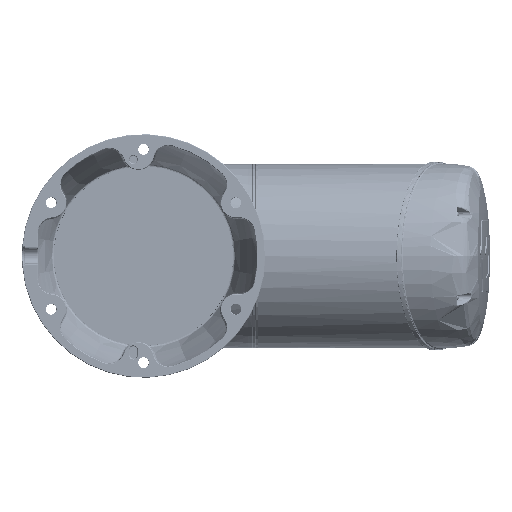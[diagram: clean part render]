
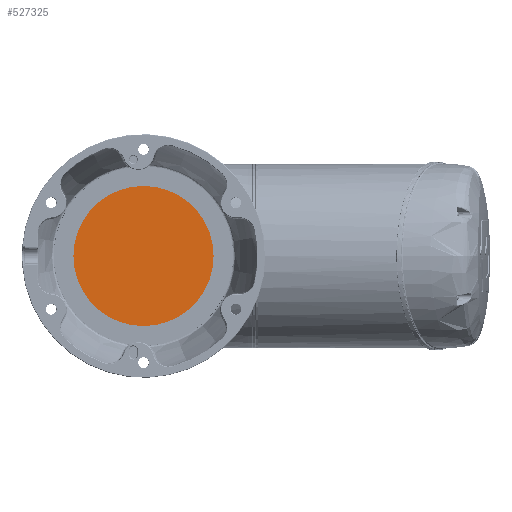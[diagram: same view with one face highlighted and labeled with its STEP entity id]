
A CAD part, front view. The second image highlights one B-rep face of the part: STEP entity #527325.
In plain terms, the highlighted planar face has unit normal (0, -1, 0).
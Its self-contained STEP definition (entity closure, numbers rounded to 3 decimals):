
#51033 = FACE_OUTER_BOUND ( 'NONE', #191072, .T. ) ;
#54501 = CARTESIAN_POINT ( 'NONE',  ( 0., 0., 0. ) ) ;
#78019 = EDGE_CURVE ( 'NONE', #438367, #431569, #463079, .T. ) ;
#118763 = DIRECTION ( 'NONE',  ( 0., -1., 0. ) ) ;
#164545 = DIRECTION ( 'NONE',  ( 0., 1., 0. ) ) ;
#191072 = EDGE_LOOP ( 'NONE', ( #491096, #366258 ) ) ;
#250323 = DIRECTION ( 'NONE',  ( 0., 0., 1. ) ) ;
#252302 = CARTESIAN_POINT ( 'NONE',  ( 0., 0., 69.012 ) ) ;
#287035 = EDGE_CURVE ( 'NONE', #431569, #438367, #527315, .T. ) ;
#293523 = DIRECTION ( 'NONE',  ( 0., 0., 1. ) ) ;
#308442 = AXIS2_PLACEMENT_3D ( 'NONE', #368930, #118763, #363534 ) ;
#335574 = DIRECTION ( 'NONE',  ( 0., -1., 0. ) ) ;
#363534 = DIRECTION ( 'NONE',  ( 0., 0., 1. ) ) ;
#366258 = ORIENTED_EDGE ( 'NONE', *, *, #287035, .T. ) ;
#368930 = CARTESIAN_POINT ( 'NONE',  ( 0., 0., 0. ) ) ;
#378157 = AXIS2_PLACEMENT_3D ( 'NONE', #54501, #335574, #293523 ) ;
#403515 = CARTESIAN_POINT ( 'NONE',  ( 0., 0., -69.012 ) ) ;
#414716 = CARTESIAN_POINT ( 'NONE',  ( 0., 0., 0. ) ) ;
#416546 = PLANE ( 'NONE',  #508522 ) ;
#431569 = VERTEX_POINT ( 'NONE', #403515 ) ;
#438367 = VERTEX_POINT ( 'NONE', #252302 ) ;
#463079 = CIRCLE ( 'NONE', #378157, 69.012 ) ;
#491096 = ORIENTED_EDGE ( 'NONE', *, *, #78019, .T. ) ;
#508522 = AXIS2_PLACEMENT_3D ( 'NONE', #414716, #164545, #250323 ) ;
#527315 = CIRCLE ( 'NONE', #308442, 69.012 ) ;
#527325 = ADVANCED_FACE ( 'NONE', ( #51033 ), #416546, .F. ) ;
